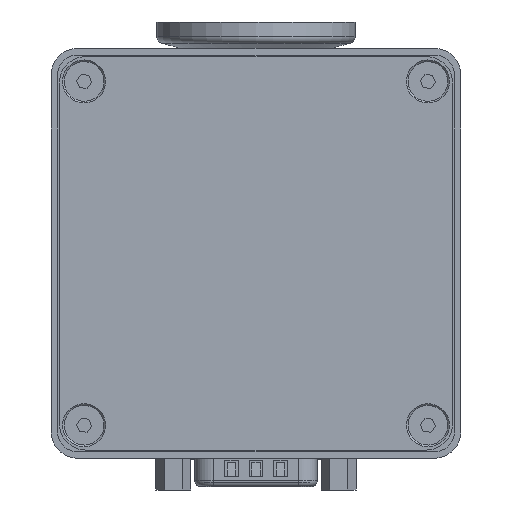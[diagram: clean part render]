
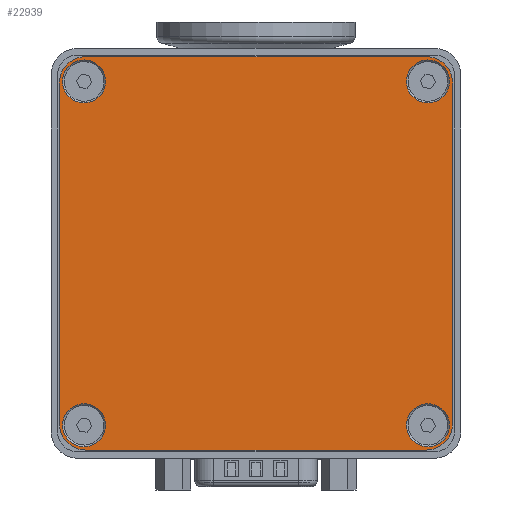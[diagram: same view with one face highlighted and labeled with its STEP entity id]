
A CAD part, front view. The second image highlights one B-rep face of the part: STEP entity #22939.
In plain terms, the highlighted planar face has unit normal (0, -1, 0) as drawn and (0, 0, 1) by its records, which use the part's own axes.
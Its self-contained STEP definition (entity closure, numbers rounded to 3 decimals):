
#5800=LINE('',#90975,#10985);
#5804=LINE('',#90987,#10989);
#5808=LINE('',#90999,#10993);
#5812=LINE('',#91010,#10997);
#10985=VECTOR('',#74302,1.);
#10989=VECTOR('',#74314,1.);
#10993=VECTOR('',#74326,1.);
#10997=VECTOR('',#74338,1.);
#20733=PLANE('',#67773);
#22939=ADVANCED_FACE('',(#27391,#27392,#27393,#27394,#27395),#20733,.F.);
#27391=FACE_BOUND('',#28406,.T.);
#27392=FACE_BOUND('',#28407,.T.);
#27393=FACE_BOUND('',#28408,.T.);
#27394=FACE_BOUND('',#28409,.T.);
#27395=FACE_BOUND('',#28410,.T.);
#28406=EDGE_LOOP('',(#33585));
#28407=EDGE_LOOP('',(#33586));
#28408=EDGE_LOOP('',(#33587));
#28409=EDGE_LOOP('',(#33588));
#28410=EDGE_LOOP('',(#33589,#33590,#33591,#33592,#33593,#33594,#33595,#33596));
#33585=ORIENTED_EDGE('',*,*,#56685,.T.);
#33586=ORIENTED_EDGE('',*,*,#56686,.T.);
#33587=ORIENTED_EDGE('',*,*,#56687,.T.);
#33588=ORIENTED_EDGE('',*,*,#56688,.T.);
#33589=ORIENTED_EDGE('',*,*,#56663,.F.);
#33590=ORIENTED_EDGE('',*,*,#56684,.F.);
#33591=ORIENTED_EDGE('',*,*,#56681,.F.);
#33592=ORIENTED_EDGE('',*,*,#56678,.F.);
#33593=ORIENTED_EDGE('',*,*,#56675,.F.);
#33594=ORIENTED_EDGE('',*,*,#56672,.F.);
#33595=ORIENTED_EDGE('',*,*,#56669,.F.);
#33596=ORIENTED_EDGE('',*,*,#56666,.F.);
#50540=VERTEX_POINT('',#90968);
#50541=VERTEX_POINT('',#90970);
#50543=VERTEX_POINT('',#90976);
#50545=VERTEX_POINT('',#90982);
#50547=VERTEX_POINT('',#90988);
#50549=VERTEX_POINT('',#90994);
#50551=VERTEX_POINT('',#91000);
#50553=VERTEX_POINT('',#91006);
#50554=VERTEX_POINT('',#91013);
#50555=VERTEX_POINT('',#91015);
#50556=VERTEX_POINT('',#91017);
#50557=VERTEX_POINT('',#91019);
#56663=EDGE_CURVE('',#50540,#50541,#65239,.T.);
#56666=EDGE_CURVE('',#50541,#50543,#5800,.T.);
#56669=EDGE_CURVE('',#50543,#50545,#65241,.T.);
#56672=EDGE_CURVE('',#50545,#50547,#5804,.T.);
#56675=EDGE_CURVE('',#50547,#50549,#65243,.T.);
#56678=EDGE_CURVE('',#50549,#50551,#5808,.T.);
#56681=EDGE_CURVE('',#50551,#50553,#65245,.T.);
#56684=EDGE_CURVE('',#50553,#50540,#5812,.T.);
#56685=EDGE_CURVE('',#50554,#50554,#65246,.T.);
#56686=EDGE_CURVE('',#50555,#50555,#65247,.T.);
#56687=EDGE_CURVE('',#50556,#50556,#65248,.T.);
#56688=EDGE_CURVE('',#50557,#50557,#65249,.T.);
#65239=CIRCLE('',#67754,4.);
#65241=CIRCLE('',#67758,4.);
#65243=CIRCLE('',#67762,4.);
#65245=CIRCLE('',#67766,4.);
#65246=CIRCLE('',#67769,3.25);
#65247=CIRCLE('',#67770,3.25);
#65248=CIRCLE('',#67771,3.25);
#65249=CIRCLE('',#67772,3.25);
#67754=AXIS2_PLACEMENT_3D('',#90969,#74296,#74297);
#67758=AXIS2_PLACEMENT_3D('',#90981,#74308,#74309);
#67762=AXIS2_PLACEMENT_3D('',#90993,#74320,#74321);
#67766=AXIS2_PLACEMENT_3D('',#91005,#74332,#74333);
#67769=AXIS2_PLACEMENT_3D('',#91012,#74341,#74342);
#67770=AXIS2_PLACEMENT_3D('',#91014,#74343,#74344);
#67771=AXIS2_PLACEMENT_3D('',#91016,#74345,#74346);
#67772=AXIS2_PLACEMENT_3D('',#91018,#74347,#74348);
#67773=AXIS2_PLACEMENT_3D('',#91020,#74349,#74350);
#74296=DIRECTION('',(0.,0.,-1.));
#74297=DIRECTION('',(1.,0.,0.));
#74302=DIRECTION('',(1.,0.,0.));
#74308=DIRECTION('',(0.,0.,-1.));
#74309=DIRECTION('',(1.,0.,0.));
#74314=DIRECTION('',(0.,-1.,0.));
#74320=DIRECTION('',(0.,0.,-1.));
#74321=DIRECTION('',(1.,0.,0.));
#74326=DIRECTION('',(-1.,0.,0.));
#74332=DIRECTION('',(0.,0.,-1.));
#74333=DIRECTION('',(1.,0.,0.));
#74338=DIRECTION('',(0.,1.,0.));
#74341=DIRECTION('',(0.,0.,-1.));
#74342=DIRECTION('',(-1.,0.,0.));
#74343=DIRECTION('',(0.,0.,-1.));
#74344=DIRECTION('',(-1.,0.,0.));
#74345=DIRECTION('',(0.,0.,-1.));
#74346=DIRECTION('',(-1.,0.,0.));
#74347=DIRECTION('',(0.,0.,-1.));
#74348=DIRECTION('',(-1.,0.,0.));
#74349=DIRECTION('',(0.,0.,-1.));
#74350=DIRECTION('',(-1.,0.,0.));
#90968=CARTESIAN_POINT('',(0.,55.5,2.));
#90969=CARTESIAN_POINT('',(4.,55.5,2.));
#90970=CARTESIAN_POINT('',(4.,59.5,2.));
#90975=CARTESIAN_POINT('',(4.,59.5,2.));
#90976=CARTESIAN_POINT('',(55.5,59.5,2.));
#90981=CARTESIAN_POINT('',(55.5,55.5,2.));
#90982=CARTESIAN_POINT('',(59.5,55.5,2.));
#90987=CARTESIAN_POINT('',(59.5,55.5,2.));
#90988=CARTESIAN_POINT('',(59.5,4.,2.));
#90993=CARTESIAN_POINT('',(55.5,4.,2.));
#90994=CARTESIAN_POINT('',(55.5,0.,2.));
#90999=CARTESIAN_POINT('',(55.5,0.,2.));
#91000=CARTESIAN_POINT('',(4.,0.,2.));
#91005=CARTESIAN_POINT('',(4.,4.,2.));
#91006=CARTESIAN_POINT('',(0.,4.,2.));
#91010=CARTESIAN_POINT('',(0.,4.,2.));
#91012=CARTESIAN_POINT('',(3.75,3.75,2.));
#91013=CARTESIAN_POINT('',(0.5,3.75,2.));
#91014=CARTESIAN_POINT('',(55.75,3.75,2.));
#91015=CARTESIAN_POINT('',(52.5,3.75,2.));
#91016=CARTESIAN_POINT('',(55.75,55.75,2.));
#91017=CARTESIAN_POINT('',(52.5,55.75,2.));
#91018=CARTESIAN_POINT('',(3.75,55.75,2.));
#91019=CARTESIAN_POINT('',(0.5,55.75,2.));
#91020=CARTESIAN_POINT('',(4.,55.5,2.));
